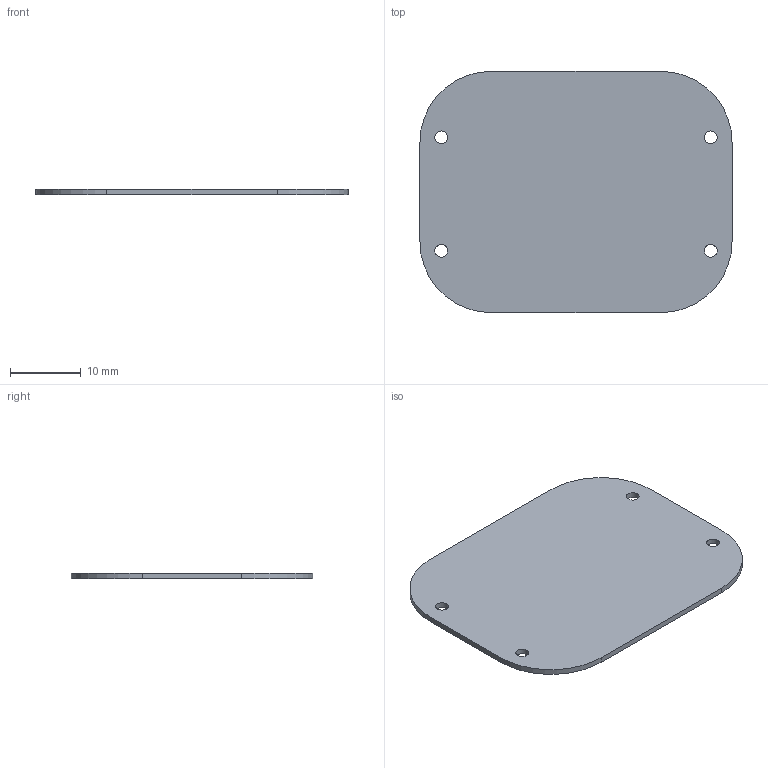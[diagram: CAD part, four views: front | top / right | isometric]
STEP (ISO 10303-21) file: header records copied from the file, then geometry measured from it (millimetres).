
FILE_DESCRIPTION(('FreeCAD Model'),'2;1');
FILE_NAME('Open CASCADE Shape Model','2026-09-21T09:51:54',('FreeCAD'),( 'FreeCAD'),'Open CASCADE STEP processor 7.8','FreeCAD','Unknown');
FILE_SCHEMA(('AUTOMOTIVE_DESIGN { 1 0 10303 214 1 1 1 1 }'));
Length unit declared in the file: millimetre
Products named in the file (1): Open CASCADE STEP translator 7.8 5
Bounding box: 44 x 34 x 0.8 mm (x, y, z)
Volume: 1120 mm3; surface area: 2929.1 mm2
Topology: 1 solids, 1 shells, 14 faces, 36 edges, 24 vertices
Faces by surface type: cylinder 8, plane 6
Full cylindrical faces by diameter (mm): 1.8 x4
Entity records: 462 total; most frequent: DIRECTION 82, CARTESIAN_POINT 75, ORIENTED_EDGE 72, EDGE_CURVE 36, AXIS2_PLACEMENT_3D 31, VERTEX_POINT 24, FACE_BOUND 22, EDGE_LOOP 22
